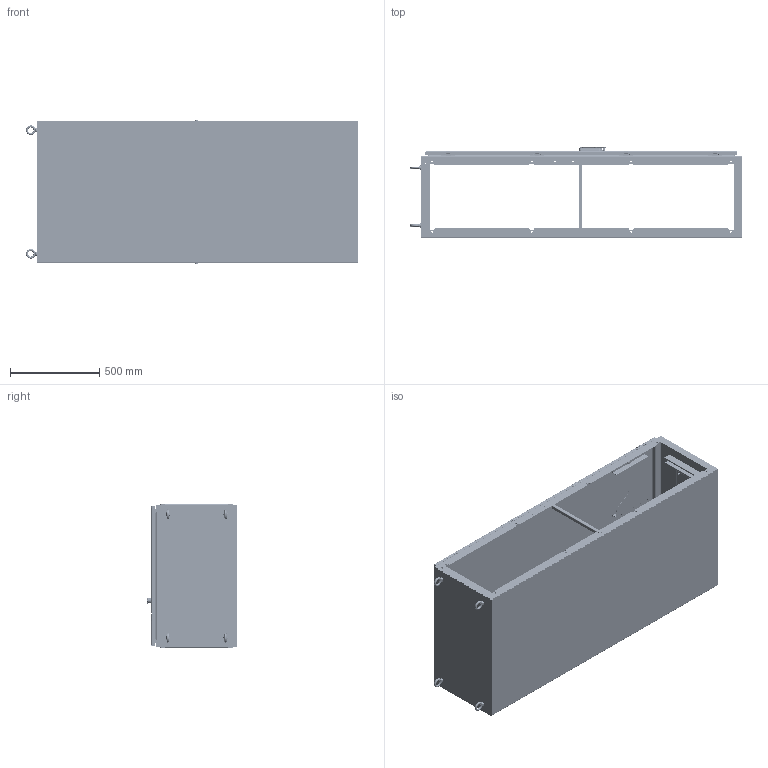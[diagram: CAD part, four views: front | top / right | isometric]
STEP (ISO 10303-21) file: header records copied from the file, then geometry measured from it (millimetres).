
FILE_DESCRIPTION((''),'2;1');
FILE_NAME('MODEL-256_ASM','2021-08-02T12:57:31',('mikek'),('SAGINAW CONTROL & ENGINEERING'),'CREO PARAMETRIC BY PTC INC, 2017260','CREO PARAMETRIC BY PTC INC, 2017260','');
FILE_SCHEMA(('AUTOMOTIVE_DESIGN { 1 0 10303 214 1 1 1 1 }'));
Length unit declared in the file: inch
Products named in the file (73): MODEL-256-R-SD; MODEL-256-L-SD; MODEL-256-TP; MODEL-256-BTM; MODEL-256-MSTR-DR; 100837; 111267; 100882; 129334-HANDLE-STOP; 129334-HANDLE-BASE; 129334-INSERT-SPRING; 129334-HANDLE-PIN; 129334-HANDLE-SHAFT; 129334-HANDLE-LOCK-SCREW; 129334-HANDLE; 129334-COINPROOF-INSERT; 129334-HANDLE-LOCK; 129334-HANDLE-SHAFT-O-RING; 129334-HANDLE_ASM; 129334-LOCK-NUT; 129334-BASE-CAP; 129334-CAM-ADAPTER; 129334-NUT; 129334_ASM; 102237; 100030; 102237_ASM; MODEL-256-ROD-UPR; 128146; 128145; 128144; 102482; MODEL-256-ROD-UPR_ASM; 128143; 112504; MODEL-256-ROD-LWR; MODEL-256-ROD-LWR_ASM; MODEL-256-GSKT-MSTR; 128257; 126397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
Assembly tree (173 placements, depth 5):
  MODEL-256_ASM
    MODEL-256-R-SD
    MODEL-256-L-SD
    MODEL-256-TP
    MODEL-256-BTM
    MODEL-256-MASTER-DR-ASSY_ASM
      MODEL-256-MSTR-DR
      100837  x7
      111267
      100882  x12
      129334_ASM
        129334-HANDLE-STOP
        129334-HANDLE-BASE
        129334-HANDLE_ASM
          129334-INSERT-SPRING
          129334-HANDLE-PIN
          129334-HANDLE-SHAFT
          129334-HANDLE-LOCK-SCREW
          129334-HANDLE
          129334-COINPROOF-INSERT
          129334-HANDLE-LOCK
          129334-HANDLE-SHAFT-O-RING
        129334-LOCK-NUT
        129334-BASE-CAP
        129334-CAM-ADAPTER
        129334-NUT  x2
      102237_ASM
        102237
        100030  x2
      MODEL-256-ROD-UPR_ASM
        MODEL-256-ROD-UPR
        128146
        128145
        128144
        102482  x2
      128143  x2
      112504  x2
      MODEL-256-ROD-LWR_ASM
        MODEL-256-ROD-LWR
        128146
        128145
        128144
        102482  x2
      MODEL-256-GSKT-MSTR
      128257_ASM  x4
        128257
        126397
      126393  x4
      102483  x4
      101369_ASM  x4
        101369
        101369-STUD
      101221  x4
    MODEL-256-SLAVE-DR-ASSY_ASM
      MODEL-256-SLV-DR
      100837  x3
      MODEL-256-GSKT-SLV
      128257_ASM  x4
        128257
        126397
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Bounding box: 1861.26 x 509.87 x 804.01 mm (x, y, z)
Volume: 14700925 mm3; surface area: 10747283.2 mm2
Topology: 186 solids, 186 shells, 17722 faces, 47037 edges, 29651 vertices
Faces by surface type: plane 6014, bspline 5476, cylinder 4413, torus 941, cone 588, sphere 287, extrusion 3
Entity records: 307070 total; most frequent: CARTESIAN_POINT 126071, ORIENTED_EDGE 27102, DIRECTION 24467, PRESENTATION_STYLE_ASSIGNMENT 13988, STYLED_ITEM 13988, EDGE_CURVE 13551, CURVE_STYLE 13539, AXIS2_PLACEMENT_3D 9192
